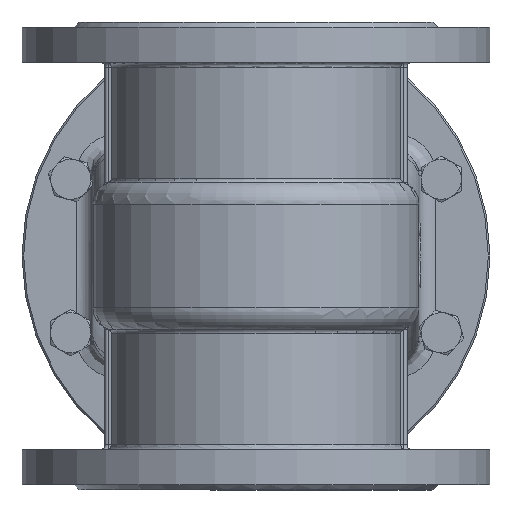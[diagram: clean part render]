
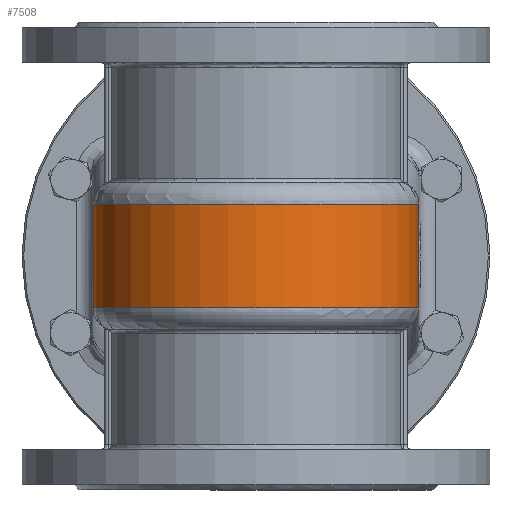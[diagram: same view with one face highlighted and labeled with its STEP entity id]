
A CAD part, front view. The second image highlights one B-rep face of the part: STEP entity #7508.
In plain terms, the highlighted cylindrical face has radius 97.5 mm (diameter 195 mm), a partial arc.
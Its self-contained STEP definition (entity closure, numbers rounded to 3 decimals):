
#7508=ADVANCED_FACE('',(#17099),#17101,.T.);
#17099=FACE_BOUND('',#17100,.T.);
#17100=EDGE_LOOP('',(#24733,#24734,#24735,#24736));
#17101=CYLINDRICAL_SURFACE('',#17102,97.5);
#17102=AXIS2_PLACEMENT_3D('',#17103,#17104,#17105);
#17103=CARTESIAN_POINT('',(0.,0.,0.));
#17104=DIRECTION('',(0.,0.,-1.));
#17105=DIRECTION('',(1.,0.,0.));
#24733=ORIENTED_EDGE('',*,*,#28110,.F.);
#24734=ORIENTED_EDGE('',*,*,#27971,.T.);
#24735=ORIENTED_EDGE('',*,*,#28111,.T.);
#24736=ORIENTED_EDGE('',*,*,#27905,.F.);
#27905=EDGE_CURVE('',#31653,#31655,#31656,.T.);
#27971=EDGE_CURVE('',#31757,#31755,#31758,.T.);
#28110=EDGE_CURVE('',#31757,#31653,#31988,.T.);
#28111=EDGE_CURVE('',#31755,#31655,#31989,.T.);
#31653=VERTEX_POINT('',#53894);
#31655=VERTEX_POINT('',#53898);
#31656=LINE('',#53899,#53900);
#31755=VERTEX_POINT('',#54605);
#31757=VERTEX_POINT('',#54609);
#31758=LINE('',#54610,#54611);
#31988=CIRCLE('',#56014,97.5);
#31989=CIRCLE('',#56018,97.5);
#53894=CARTESIAN_POINT('',(-97.5,0.,-31.));
#53898=CARTESIAN_POINT('',(-97.5,0.,31.));
#53899=CARTESIAN_POINT('',(-97.5,0.,-31.));
#53900=VECTOR('',#53901,1.);
#53901=DIRECTION('',(0.,0.,1.));
#54605=CARTESIAN_POINT('',(97.5,0.,31.));
#54609=CARTESIAN_POINT('',(97.5,0.,-31.));
#54610=CARTESIAN_POINT('',(97.5,0.,-31.));
#54611=VECTOR('',#54612,1.);
#54612=DIRECTION('',(0.,0.,1.));
#56014=AXIS2_PLACEMENT_3D('',#56015,#56016,#56017);
#56015=CARTESIAN_POINT('',(0.,0.,-31.));
#56016=DIRECTION('',(0.,0.,-1.));
#56017=DIRECTION('',(1.,0.,0.));
#56018=AXIS2_PLACEMENT_3D('',#56019,#56020,#56021);
#56019=CARTESIAN_POINT('',(0.,0.,31.));
#56020=DIRECTION('',(0.,0.,-1.));
#56021=DIRECTION('',(1.,0.,0.));
